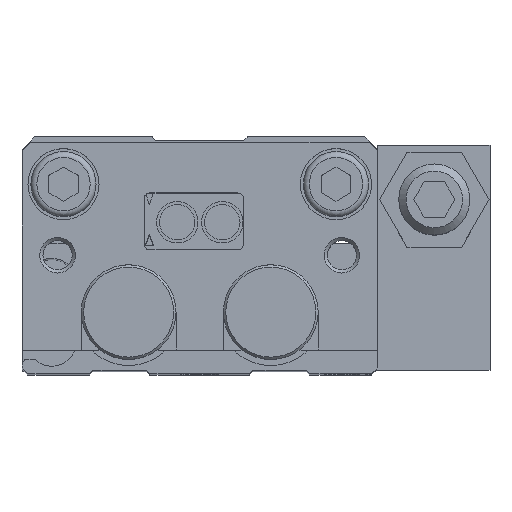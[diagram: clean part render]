
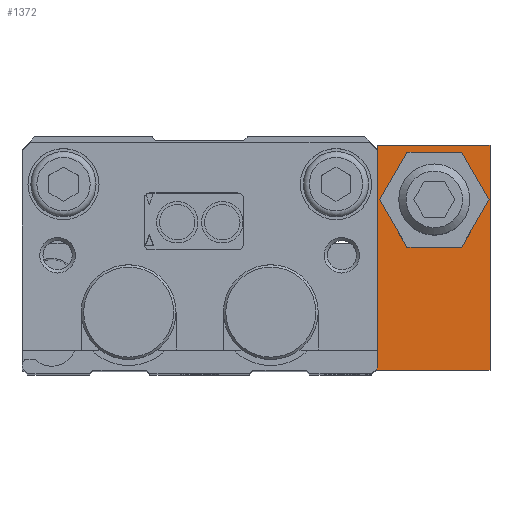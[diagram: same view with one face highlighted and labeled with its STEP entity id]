
A CAD part, top view. The second image highlights one B-rep face of the part: STEP entity #1372.
In plain terms, the highlighted planar face has unit normal (0, 0, 1) as drawn and (0, 0, -1) by its records, which use the part's own axes.
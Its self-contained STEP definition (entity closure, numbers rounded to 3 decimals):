
#1372 = ADVANCED_FACE( '', ( #2937, #2938 ), #2939, .F. );
#2937 = FACE_BOUND( '', #4563, .T. );
#2938 = FACE_OUTER_BOUND( '', #4564, .T. );
#2939 = PLANE( '', #4565 );
#4563 = EDGE_LOOP( '', ( #7966, #7967, #7968, #7969, #7970, #7971 ) );
#4564 = EDGE_LOOP( '', ( #7972, #7973, #7974, #7975, #7976, #7977 ) );
#4565 = AXIS2_PLACEMENT_3D( '', #7978, #7979, #7980 );
#7966 = ORIENTED_EDGE( '', *, *, #8765, .T. );
#7967 = ORIENTED_EDGE( '', *, *, #9394, .T. );
#7968 = ORIENTED_EDGE( '', *, *, #9795, .T. );
#7969 = ORIENTED_EDGE( '', *, *, #8841, .T. );
#7970 = ORIENTED_EDGE( '', *, *, #9272, .T. );
#7971 = ORIENTED_EDGE( '', *, *, #8903, .T. );
#7972 = ORIENTED_EDGE( '', *, *, #9049, .F. );
#7973 = ORIENTED_EDGE( '', *, *, #9612, .F. );
#7974 = ORIENTED_EDGE( '', *, *, #9741, .F. );
#7975 = ORIENTED_EDGE( '', *, *, #9529, .F. );
#7976 = ORIENTED_EDGE( '', *, *, #9329, .F. );
#7977 = ORIENTED_EDGE( '', *, *, #9091, .F. );
#7978 = CARTESIAN_POINT( '', ( 0., 0., -3.5 ) );
#7979 = DIRECTION( '', ( 0., 0., 1. ) );
#7980 = DIRECTION( '', ( 1., 0., 0. ) );
#8765 = EDGE_CURVE( '', #10353, #10354, #10355, .T. );
#8841 = EDGE_CURVE( '', #10480, #10481, #10482, .T. );
#8903 = EDGE_CURVE( '', #10578, #10353, #10579, .T. );
#9049 = EDGE_CURVE( '', #10820, #10821, #10822, .T. );
#9091 = EDGE_CURVE( '', #10821, #10887, #10888, .T. );
#9272 = EDGE_CURVE( '', #10481, #10578, #11163, .T. );
#9329 = EDGE_CURVE( '', #10887, #11248, #11249, .T. );
#9394 = EDGE_CURVE( '', #10354, #11341, #11342, .T. );
#9529 = EDGE_CURVE( '', #11248, #11521, #11522, .T. );
#9612 = EDGE_CURVE( '', #11630, #10820, #11631, .T. );
#9741 = EDGE_CURVE( '', #11521, #11630, #11789, .T. );
#9795 = EDGE_CURVE( '', #11341, #10480, #11852, .T. );
#10353 = VERTEX_POINT( '', #12561 );
#10354 = VERTEX_POINT( '', #12562 );
#10355 = LINE( '', #12563, #12564 );
#10480 = VERTEX_POINT( '', #12725 );
#10481 = VERTEX_POINT( '', #12726 );
#10482 = LINE( '', #12727, #12728 );
#10578 = VERTEX_POINT( '', #12855 );
#10579 = LINE( '', #12856, #12857 );
#10820 = VERTEX_POINT( '', #13189 );
#10821 = VERTEX_POINT( '', #13190 );
#10822 = LINE( '', #13191, #13192 );
#10887 = VERTEX_POINT( '', #13278 );
#10888 = LINE( '', #13279, #13280 );
#11163 = LINE( '', #13660, #13661 );
#11248 = VERTEX_POINT( '', #13774 );
#11249 = LINE( '', #13775, #13776 );
#11341 = VERTEX_POINT( '', #13901 );
#11342 = LINE( '', #13902, #13903 );
#11521 = VERTEX_POINT( '', #14135 );
#11522 = LINE( '', #14136, #14137 );
#11630 = VERTEX_POINT( '', #14278 );
#11631 = LINE( '', #14279, #14280 );
#11789 = LINE( '', #14486, #14487 );
#11852 = LINE( '', #14564, #14565 );
#12561 = CARTESIAN_POINT( '', ( -2.391, 8.6, -3.5 ) );
#12562 = CARTESIAN_POINT( '', ( -7.009, 8.6, -3.5 ) );
#12563 = CARTESIAN_POINT( '', ( -2.391, 8.6, -3.5 ) );
#12564 = VECTOR( '', #15003, 1000. );
#12725 = CARTESIAN_POINT( '', ( -7.009, 0.6, -3.5 ) );
#12726 = CARTESIAN_POINT( '', ( -2.391, 0.6, -3.5 ) );
#12727 = CARTESIAN_POINT( '', ( -7.009, 0.6, -3.5 ) );
#12728 = VECTOR( '', #15097, 1000. );
#12855 = CARTESIAN_POINT( '', ( -0.081, 4.6, -3.5 ) );
#12856 = CARTESIAN_POINT( '', ( -0.081, 4.6, -3.5 ) );
#12857 = VECTOR( '', #15165, 1000. );
#13189 = CARTESIAN_POINT( '', ( -10.5, 19., -3.5 ) );
#13190 = CARTESIAN_POINT( '', ( -10.5, 8.5, -3.5 ) );
#13191 = CARTESIAN_POINT( '', ( -10.5, 19., -3.5 ) );
#13192 = VECTOR( '', #15350, 1000. );
#13278 = CARTESIAN_POINT( '', ( -9.5, 8.5, -3.5 ) );
#13279 = CARTESIAN_POINT( '', ( -10.5, 8.5, -3.5 ) );
#13280 = VECTOR( '', #15396, 1000. );
#13660 = CARTESIAN_POINT( '', ( -2.391, 0.6, -3.5 ) );
#13661 = VECTOR( '', #15583, 1000. );
#13774 = CARTESIAN_POINT( '', ( -9.5, 0., -3.5 ) );
#13775 = CARTESIAN_POINT( '', ( -9.5, 8.5, -3.5 ) );
#13776 = VECTOR( '', #15639, 1000. );
#13901 = CARTESIAN_POINT( '', ( -9.319, 4.6, -3.5 ) );
#13902 = CARTESIAN_POINT( '', ( -7.009, 8.6, -3.5 ) );
#13903 = VECTOR( '', #15703, 1000. );
#14135 = CARTESIAN_POINT( '', ( 0., 0., -3.5 ) );
#14136 = CARTESIAN_POINT( '', ( -9.5, 0., -3.5 ) );
#14137 = VECTOR( '', #15850, 1000. );
#14278 = CARTESIAN_POINT( '', ( 0., 19., -3.5 ) );
#14279 = CARTESIAN_POINT( '', ( 0., 19., -3.5 ) );
#14280 = VECTOR( '', #15926, 1000. );
#14486 = CARTESIAN_POINT( '', ( 0., 0., -3.5 ) );
#14487 = VECTOR( '', #16044, 1000. );
#14564 = CARTESIAN_POINT( '', ( -9.319, 4.6, -3.5 ) );
#14565 = VECTOR( '', #16077, 1000. );
#15003 = DIRECTION( '', ( -1., 0., 0. ) );
#15097 = DIRECTION( '', ( 1., 0., 0. ) );
#15165 = DIRECTION( '', ( -0.5, 0.866, 0. ) );
#15350 = DIRECTION( '', ( 0., -1., 0. ) );
#15396 = DIRECTION( '', ( 1., 0., 0. ) );
#15583 = DIRECTION( '', ( 0.5, 0.866, 0. ) );
#15639 = DIRECTION( '', ( 0., -1., 0. ) );
#15703 = DIRECTION( '', ( -0.5, -0.866, 0. ) );
#15850 = DIRECTION( '', ( 1., 0., 0. ) );
#15926 = DIRECTION( '', ( -1., 0., 0. ) );
#16044 = DIRECTION( '', ( 0., 1., 0. ) );
#16077 = DIRECTION( '', ( 0.5, -0.866, 0. ) );
